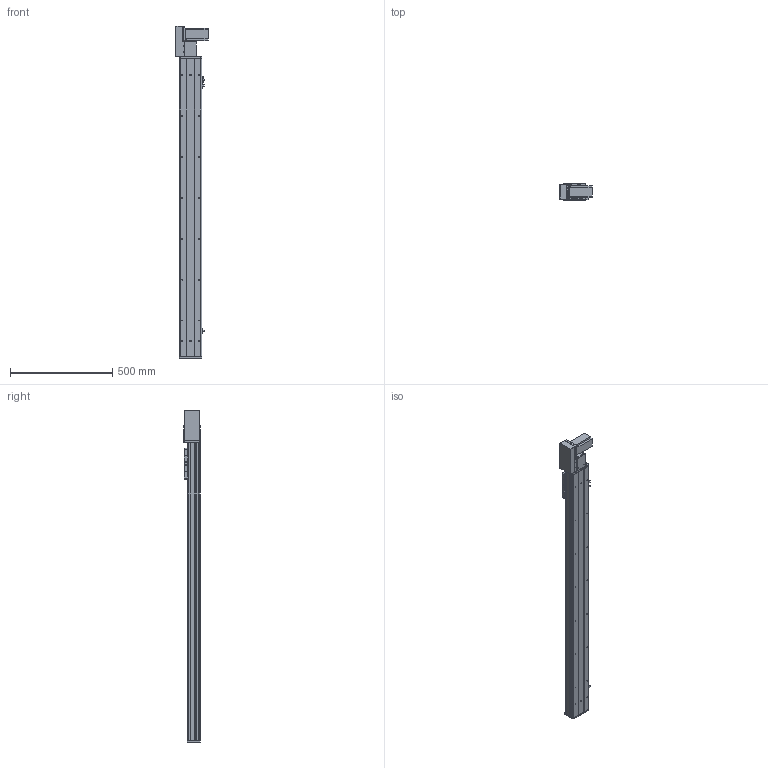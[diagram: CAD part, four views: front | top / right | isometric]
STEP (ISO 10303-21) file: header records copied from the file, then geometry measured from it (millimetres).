
FILE_DESCRIPTION (( 'STEP AP203' ), '1' );
FILE_NAME ('Y10CB-D90-S1200-BL-P400W.STEP', '2020-02-15T08:00:33', ( '微软用户' ), ( '微软中国' ), 'SwSTEP 2.0', 'SolidWorks 2017', '' );
FILE_SCHEMA (( 'CONFIG_CONTROL_DESIGN' ));
Length unit declared in the file: millimetre
Products named in the file (18): san松下电机400不带刹车----; Y135C-陔俋离換覜結え-; 0B-源倛裔啣; Y100-135俋离換覜ん--; 0B-埴倛裔啣; 0CB-雄赽釱---; Y10CB-D90-S1200-BL-P400W; Y俋欶BR----; 0Cb-俋欶---; 10CB-詩湍-; Y10B-々湍喘謫眊楊擘啣--; Y10CB- 掛极耜裔啣-毀---; Y10B--々湍喘謫眊--666; Y10C---詩湍揤啣; Y10B-耜蚾蟀諉啣----; 10CB9-掛极; 0B-萇儂楊擘啣; 10CB-耜裔
Assembly tree (21 placements, depth 2):
  Y10CB-D90-S1200-BL-P400W
    0CB-雄赽釱---
    0Cb-俋欶---
    Y10B-々湍喘謫眊楊擘啣--
    Y10B--々湍喘謫眊--666
    Y10B-耜蚾蟀諉啣----
    0B-萇儂楊擘啣
    san松下电机400不带刹车----
    0B-源倛裔啣
    0B-埴倛裔啣
    Y俋欶BR----
    10CB-詩湍-
    Y10CB- 掛极耜裔啣-毀---  x2
    Y10C---詩湍揤啣  x2
    10CB9-掛极
    10CB-耜裔
    Y135C-陔俋离換覜結え-
    Y100-135俋离換覜ん--  x3
Bounding box: 157.5 x 80.5 x 1622.5 mm (x, y, z)
Volume: 3485716.4 mm3; surface area: 1588750.5 mm2
Topology: 21 solids, 21 shells, 1002 faces, 2683 edges, 1754 vertices
Faces by surface type: cylinder 497, plane 481, cone 24
Entity records: 31404 total; most frequent: CARTESIAN_POINT 5617, DIRECTION 5062, ORIENTED_EDGE 4836, EDGE_CURVE 2418, AXIS2_PLACEMENT_3D 1809, VERTEX_POINT 1580, LINE 1444, VECTOR 1444
